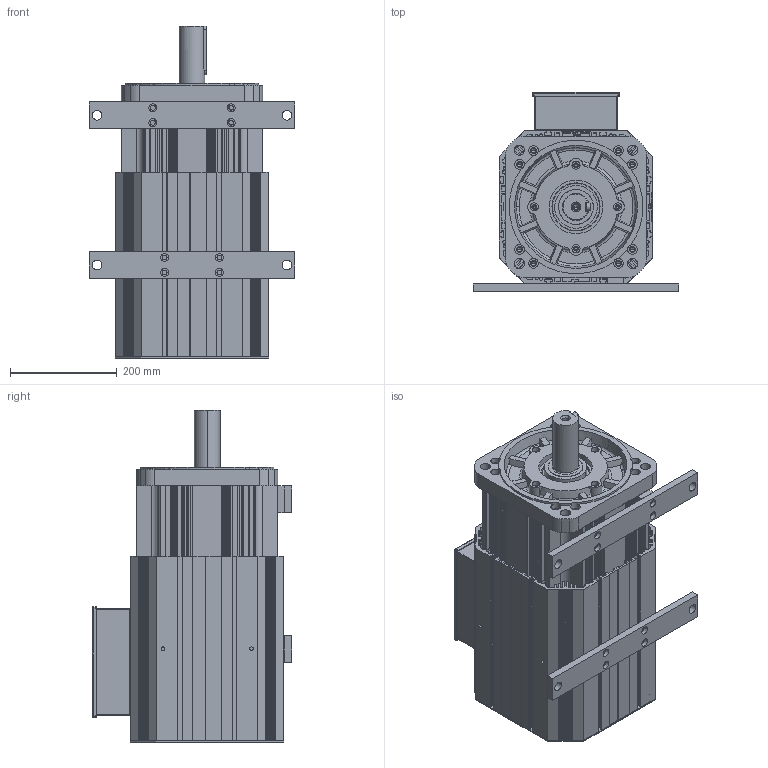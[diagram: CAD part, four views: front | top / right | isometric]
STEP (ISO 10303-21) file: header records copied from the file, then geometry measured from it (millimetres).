
FILE_DESCRIPTION (( 'STEP AP203' ), '1' );
FILE_NAME ('ZE2503.STEP', '2024-10-24T09:56:52', ( 'MicroSoft' ), ( 'MicroSoft' ), 'SwSTEP 2.0', 'SolidWorks 2020', '' );
FILE_SCHEMA (( 'CONFIG_CONTROL_DESIGN' ));
Length unit declared in the file: millimetre
Products named in the file (23): Z25-01-03(25綴楊擘); Z25-01-26（25导轨条）; Z25-01-24（25接线盒盖板）; Z25-01-09(25电机前轴承挡圈); 25す瑩ㄗ14-9-91ㄘ; Z25-01-02(25前法兰); Z25-01-07(25萇儂綴菁褐盓殤) ; Z25-01-25（25接线盒密封垫）; GB／T276-94深沟球轴承6313-2Z; Z25-01-13（25风扇固定片）; Z25-01-23（25接线盒焊接）; Z25-01-01(25儂褲)_2504; Z25-01-12(25炵蹈絳瑞啣C)_3-4耀; Z25-01-10(25炵蹈絳瑞啣A)_3-4耀; Z25-01-08(25电机底脚支架垫板); Z25-01-04(25全系电机轴-旋变)_2503; Z25-01-27（25端子固定片）; Z25-01-11(25炵蹈絳瑞啣B)_3-4耀; Z25-01-28(晤鎢ん綴欶褲); Z25-01-06(25萇儂ヶ菁褐盓殤); Z25-01-18（前轴承压盖）; ZE2503; 25諉盄碟郪璃
Assembly tree (23 placements, depth 3):
  ZE2503
    Z25-01-02(25前法兰)
    Z25-01-01(25儂褲)_2504
    Z25-01-03(25綴楊擘)
    GB／T276-94深沟球轴承6313-2Z
    Z25-01-06(25萇儂ヶ菁褐盓殤)
    Z25-01-07(25萇儂綴菁褐盓殤) 
    Z25-01-08(25电机底脚支架垫板)
    Z25-01-09(25电机前轴承挡圈)
    25す瑩ㄗ14-9-91ㄘ
    Z25-01-13（25风扇固定片）
    Z25-01-18（前轴承压盖）
    Z25-01-28(晤鎢ん綴欶褲)
    25諉盄碟郪璃
      Z25-01-23（25接线盒焊接）
      Z25-01-26（25导轨条）
      Z25-01-27（25端子固定片）
      Z25-01-24（25接线盒盖板）
      Z25-01-25（25接线盒密封垫）
    Z25-01-04(25全系电机轴-旋变)_2503
    Z25-01-10(25炵蹈絳瑞啣A)_3-4耀
    Z25-01-11(25炵蹈絳瑞啣B)_3-4耀
    Z25-01-12(25炵蹈絳瑞啣C)_3-4耀  x2
Bounding box: 384 x 372.9 x 621 mm (x, y, z)
Volume: 11714183.3 mm3; surface area: 3468955.3 mm2
Topology: 23 solids, 23 shells, 3118 faces, 8633 edges, 5550 vertices
Faces by surface type: cylinder 1422, plane 1178, cone 195, sphere 118, torus 107, bspline 98
Entity records: 103123 total; most frequent: CARTESIAN_POINT 26782, DIRECTION 15808, ORIENTED_EDGE 15582, EDGE_CURVE 7791, AXIS2_PLACEMENT_3D 5874, VERTEX_POINT 5032, VECTOR 4060, LINE 4060
